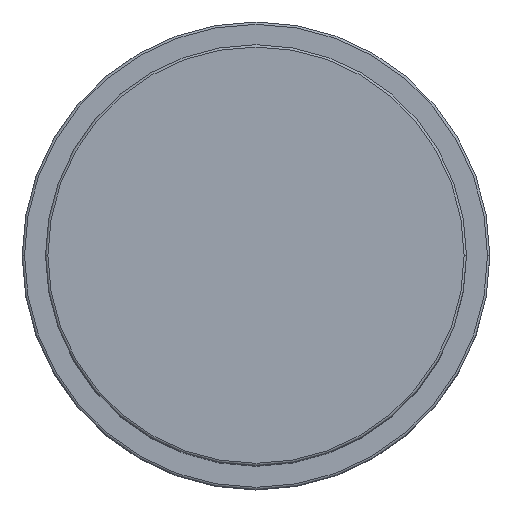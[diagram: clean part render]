
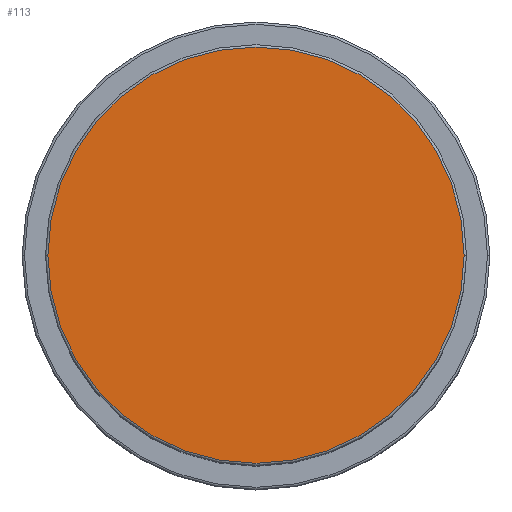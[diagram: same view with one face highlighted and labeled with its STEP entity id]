
A CAD part, top view. The second image highlights one B-rep face of the part: STEP entity #113.
In plain terms, the highlighted planar face has unit normal (0, 0, 1).
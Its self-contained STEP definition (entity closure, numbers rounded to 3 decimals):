
#81 = CARTESIAN_POINT ( 'NONE',  ( 44.5, 0., 102. ) ) ;
#113 = ADVANCED_FACE ( 'NONE', ( #345 ), #823, .T. ) ;
#345 = FACE_OUTER_BOUND ( 'NONE', #642, .T. ) ;
#476 = DIRECTION ( 'NONE',  ( 1., 0., 0. ) ) ;
#565 = VERTEX_POINT ( 'NONE', #1491 ) ;
#641 = CARTESIAN_POINT ( 'NONE',  ( 0., 0., 102. ) ) ;
#642 = EDGE_LOOP ( 'NONE', ( #739, #1279 ) ) ;
#682 = AXIS2_PLACEMENT_3D ( 'NONE', #1609, #1774, #992 ) ;
#702 = CARTESIAN_POINT ( 'NONE',  ( 0., 0., 102. ) ) ;
#739 = ORIENTED_EDGE ( 'NONE', *, *, #1330, .T. ) ;
#823 = PLANE ( 'NONE',  #1943 ) ;
#854 = DIRECTION ( 'NONE',  ( 0., 0., 1. ) ) ;
#992 = DIRECTION ( 'NONE',  ( 1., 0., 0. ) ) ;
#1028 = AXIS2_PLACEMENT_3D ( 'NONE', #641, #1416, #476 ) ;
#1175 = EDGE_CURVE ( 'NONE', #565, #1352, #1500, .T. ) ;
#1279 = ORIENTED_EDGE ( 'NONE', *, *, #1175, .T. ) ;
#1330 = EDGE_CURVE ( 'NONE', #1352, #565, #1426, .T. ) ;
#1348 = DIRECTION ( 'NONE',  ( 1., 0., 0. ) ) ;
#1352 = VERTEX_POINT ( 'NONE', #81 ) ;
#1416 = DIRECTION ( 'NONE',  ( 0., 0., 1. ) ) ;
#1426 = CIRCLE ( 'NONE', #682, 44.5 ) ;
#1491 = CARTESIAN_POINT ( 'NONE',  ( -44.5, 0., 102. ) ) ;
#1500 = CIRCLE ( 'NONE', #1028, 44.5 ) ;
#1609 = CARTESIAN_POINT ( 'NONE',  ( 0., 0., 102. ) ) ;
#1774 = DIRECTION ( 'NONE',  ( 0., 0., 1. ) ) ;
#1943 = AXIS2_PLACEMENT_3D ( 'NONE', #702, #854, #1348 ) ;
